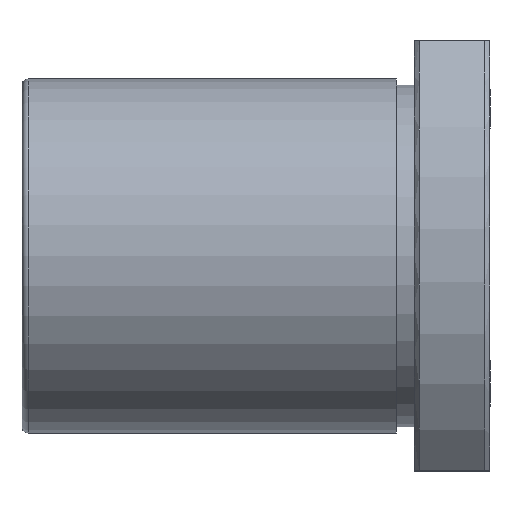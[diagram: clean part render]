
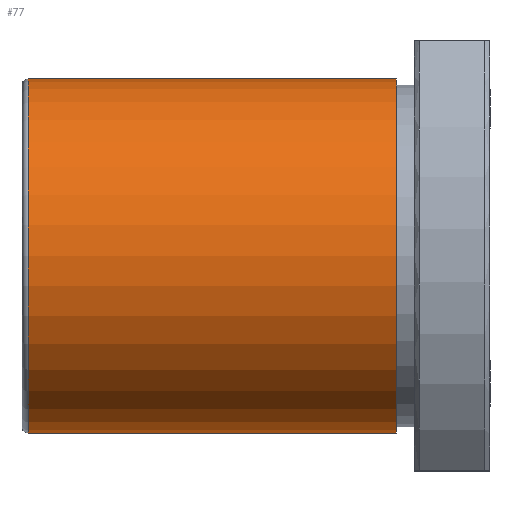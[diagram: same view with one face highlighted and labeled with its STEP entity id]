
A CAD part, top view. The second image highlights one B-rep face of the part: STEP entity #77.
In plain terms, the highlighted cylindrical face has radius 14 mm (diameter 28 mm), a full revolution.
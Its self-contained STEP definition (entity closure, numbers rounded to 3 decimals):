
#77=ADVANCED_FACE('',(#108,#109),#110,.T.);
#108=FACE_OUTER_BOUND('',#192,.T.);
#109=FACE_OUTER_BOUND('',#193,.T.);
#110=CYLINDRICAL_SURFACE('',#194,14.0);
#192=EDGE_LOOP('',(#290));
#193=EDGE_LOOP('',(#291));
#194=AXIS2_PLACEMENT_3D('',#292,#293,#294);
#290=ORIENTED_EDGE('',*,*,#461,.F.);
#291=ORIENTED_EDGE('',*,*,#462,.T.);
#292=CARTESIAN_POINT('',(-21.95,0.0,0.));
#293=DIRECTION('',(-1.0,-0.0,0.));
#294=DIRECTION('',(0.0,1.0,0.0));
#461=EDGE_CURVE('',#518,#518,#519,.T.);
#462=EDGE_CURVE('',#520,#520,#521,.T.);
#518=VERTEX_POINT('',#623);
#519=CIRCLE('',#624,14.0);
#520=VERTEX_POINT('',#625);
#521=CIRCLE('',#626,14.0);
#623=CARTESIAN_POINT('',(-36.5,14.0,0.));
#624=AXIS2_PLACEMENT_3D('',#711,#712,#713);
#625=CARTESIAN_POINT('',(-7.4,14.0,0.0));
#626=AXIS2_PLACEMENT_3D('',#714,#715,#716);
#711=CARTESIAN_POINT('',(-36.5,0.0,0.));
#712=DIRECTION('',(-1.0,0.0,0.));
#713=DIRECTION('',(0.0,1.0,0.0));
#714=CARTESIAN_POINT('',(-7.4,0.0,0.0));
#715=DIRECTION('',(-1.0,0.0,0.));
#716=DIRECTION('',(0.0,1.0,0.0));
